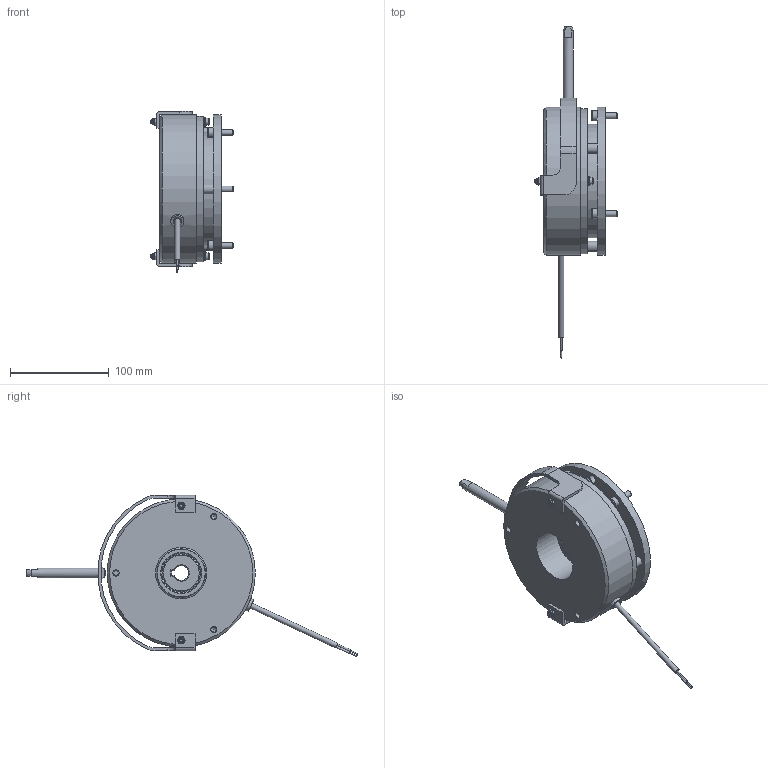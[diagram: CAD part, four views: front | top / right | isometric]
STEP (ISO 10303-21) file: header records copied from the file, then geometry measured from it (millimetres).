
FILE_DESCRIPTION(/* description */ (''),/* implementation_level */ '2;1');
FILE_NAME(/* name */ 'C:\SapWorkDir\Inventor\IP1\ConvertTempPath\5028676_IPT_000.ipt.stp',/* time_stamp */ '2020-09-16T16:08:45+02:00',/* author */ ('STRATE'),/* organization */ (''),/* preprocessor_version */ 'ST-DEVELOPER v17',/* originating_system */ 'Autodesk Inventor 2018',/* authorisation */ '');
FILE_SCHEMA (('AUTOMOTIVE_DESIGN { 1 0 10303 214 3 1 1 }'));
Length unit declared in the file: millimetre
Products named in the file (1): 5028676
Bounding box: 83.2 x 335.86 x 163.04 mm (x, y, z)
Volume: 943483.2 mm3; surface area: 165929.4 mm2
Topology: 2 solids, 2 shells, 633 faces, 1763 edges, 1183 vertices
Faces by surface type: cylinder 336, plane 187, cone 86, torus 22, bspline 2
Full cylindrical faces by diameter (mm): 1 x2, 1.85 x2, 4 x4, 4.134 x2, 4.3 x2, 5 x2, 5.3 x1, 5.387 x3, 5.4 x2, 5.95 x2, 6 x7, 6.4 x6, 6.6 x7, 7 x2, 8.3 x2, 9 x2, 9.2 x2, 10 x7, 10.8 x6, 11.3 x3, 13.2 x1, 52 x3, 69.5 x2, 70.1 x2, 115 x1, 147 x1, 150 x2
Entity records: 25368 total; most frequent: CARTESIAN_POINT 8520, ORIENTED_EDGE 3514, DIRECTION 3268, EDGE_CURVE 1757, AXIS2_PLACEMENT_3D 1322, VERTEX_POINT 1183, EDGE_LOOP 736, CIRCLE 666
